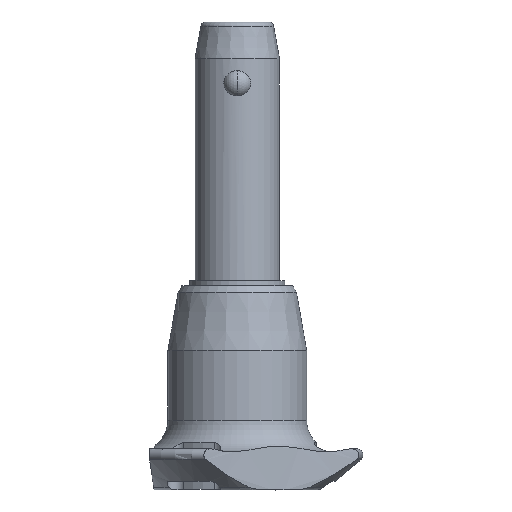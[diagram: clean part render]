
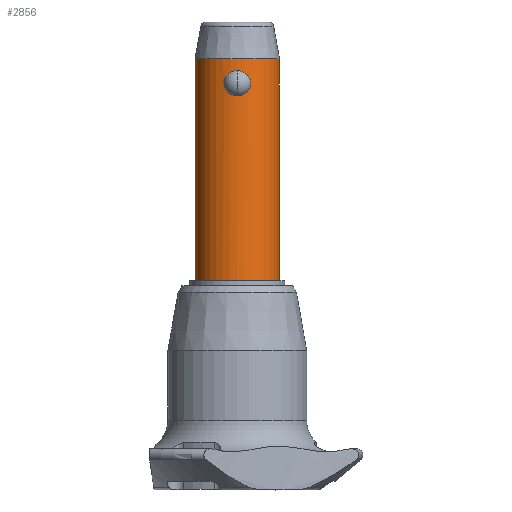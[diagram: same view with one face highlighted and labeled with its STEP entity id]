
A CAD part, front view. The second image highlights one B-rep face of the part: STEP entity #2856.
In plain terms, the highlighted cylindrical face has radius 8 mm (diameter 16 mm), a partial arc.
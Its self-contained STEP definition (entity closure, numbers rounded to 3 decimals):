
#48 = CARTESIAN_POINT ( 'NONE',  ( -2.546, -7.584, 2.553 ) ) ;
#78 = CARTESIAN_POINT ( 'NONE',  ( 0., 0., -35. ) ) ;
#117 = CARTESIAN_POINT ( 'NONE',  ( 1.105, -7.925, 0.226 ) ) ;
#128 = CARTESIAN_POINT ( 'NONE',  ( 2.46, -7.613, 1.742 ) ) ;
#177 = CARTESIAN_POINT ( 'NONE',  ( -1.107, -7.924, 4.548 ) ) ;
#259 = DIRECTION ( 'NONE',  ( 0., 0., 1. ) ) ;
#268 = CARTESIAN_POINT ( 'NONE',  ( -2.003, -7.746, 3.882 ) ) ;
#290 = ORIENTED_EDGE ( 'NONE', *, *, #1285, .F. ) ;
#307 = CARTESIAN_POINT ( 'NONE',  ( 2.528, -7.59, 2.058 ) ) ;
#356 = VERTEX_POINT ( 'NONE', #936 ) ;
#422 = CARTESIAN_POINT ( 'NONE',  ( -0.164, -8., 4.775 ) ) ;
#462 = FACE_OUTER_BOUND ( 'NONE', #1162, .T. ) ;
#474 = VERTEX_POINT ( 'NONE', #1502 ) ;
#517 = CARTESIAN_POINT ( 'NONE',  ( -1.896, -7.773, 4.001 ) ) ;
#529 = DIRECTION ( 'NONE',  ( 1., 0., 0. ) ) ;
#530 = CARTESIAN_POINT ( 'NONE',  ( -2.547, -7.584, 2.229 ) ) ;
#535 = DIRECTION ( 'NONE',  ( 0., 0., 1. ) ) ;
#553 = VERTEX_POINT ( 'NONE', #2702 ) ;
#556 = CARTESIAN_POINT ( 'NONE',  ( 0.652, -7.979, 0.058 ) ) ;
#567 = CARTESIAN_POINT ( 'NONE',  ( 2.275, -7.67, 1.291 ) ) ;
#568 = EDGE_LOOP ( 'NONE', ( #2649, #290 ) ) ;
#673 = CARTESIAN_POINT ( 'NONE',  ( 0., -8., 4.775 ) ) ;
#689 = CARTESIAN_POINT ( 'NONE',  ( -0.324, -8., 0. ) ) ;
#692 = CARTESIAN_POINT ( 'NONE',  ( 0., 0., -35. ) ) ;
#773 = CARTESIAN_POINT ( 'NONE',  ( 0.324, -8., 0. ) ) ;
#785 = CARTESIAN_POINT ( 'NONE',  ( 1.894, -7.773, 0.773 ) ) ;
#796 = CARTESIAN_POINT ( 'NONE',  ( 2.016, -7.746, 3.891 ) ) ;
#833 = ORIENTED_EDGE ( 'NONE', *, *, #2160, .T. ) ;
#851 = CARTESIAN_POINT ( 'NONE',  ( 0.164, -8., 4.775 ) ) ;
#855 = VECTOR ( 'NONE', #535, 1000. ) ;
#915 = CARTESIAN_POINT ( 'NONE',  ( 8., 0., -35. ) ) ;
#936 = CARTESIAN_POINT ( 'NONE',  ( 8., 0., -35. ) ) ;
#938 = CARTESIAN_POINT ( 'NONE',  ( -2.016, -7.746, 0.883 ) ) ;
#969 = LINE ( 'NONE', #2523, #855 ) ;
#1007 = CARTESIAN_POINT ( 'NONE',  ( 1.252, -7.903, 0.296 ) ) ;
#1017 = ORIENTED_EDGE ( 'NONE', *, *, #2526, .F. ) ;
#1020 = CARTESIAN_POINT ( 'NONE',  ( 2.41, -7.629, 3.184 ) ) ;
#1064 = CARTESIAN_POINT ( 'NONE',  ( -1.252, -7.903, 4.479 ) ) ;
#1088 = CARTESIAN_POINT ( 'NONE',  ( 0.645, -7.976, 4.704 ) ) ;
#1142 = CARTESIAN_POINT ( 'NONE',  ( -2.408, -7.629, 3.189 ) ) ;
#1155 = CARTESIAN_POINT ( 'NONE',  ( -1.658, -7.827, 4.216 ) ) ;
#1162 = EDGE_LOOP ( 'NONE', ( #1996, #1017, #2825, #833 ) ) ;
#1167 = CARTESIAN_POINT ( 'NONE',  ( -2.459, -7.613, 3.036 ) ) ;
#1176 = CARTESIAN_POINT ( 'NONE',  ( 0.804, -7.961, 4.661 ) ) ;
#1194 = CARTESIAN_POINT ( 'NONE',  ( 1.66, -7.827, 4.215 ) ) ;
#1234 = CARTESIAN_POINT ( 'NONE',  ( 2.529, -7.59, 2.71 ) ) ;
#1285 = EDGE_CURVE ( 'NONE', #474, #2328, #1961, .T. ) ;
#1372 = DIRECTION ( 'NONE',  ( 0., 0., -1. ) ) ;
#1395 = CARTESIAN_POINT ( 'NONE',  ( 0., -8., 0. ) ) ;
#1415 = AXIS2_PLACEMENT_3D ( 'NONE', #1608, #2046, #1826 ) ;
#1434 = CARTESIAN_POINT ( 'NONE',  ( 1.657, -7.827, 0.558 ) ) ;
#1443 = EDGE_CURVE ( 'NONE', #356, #553, #2703, .T. ) ;
#1446 = VERTEX_POINT ( 'NONE', #2270 ) ;
#1447 = CARTESIAN_POINT ( 'NONE',  ( 2.408, -7.629, 1.586 ) ) ;
#1502 = CARTESIAN_POINT ( 'NONE',  ( 0., -8., 0. ) ) ;
#1529 = CARTESIAN_POINT ( 'NONE',  ( 0., -8., 4.775 ) ) ;
#1579 = DIRECTION ( 'NONE',  ( 1., 0., 0. ) ) ;
#1588 = CARTESIAN_POINT ( 'NONE',  ( -2.461, -7.612, 1.746 ) ) ;
#1607 = CARTESIAN_POINT ( 'NONE',  ( -2.211, -7.69, 1.148 ) ) ;
#1608 = CARTESIAN_POINT ( 'NONE',  ( 0., 0., 7. ) ) ;
#1684 = CARTESIAN_POINT ( 'NONE',  ( 1.253, -7.903, 4.478 ) ) ;
#1713 = CARTESIAN_POINT ( 'NONE',  ( 0.326, -7.995, 4.761 ) ) ;
#1738 = AXIS2_PLACEMENT_3D ( 'NONE', #692, #2686, #1579 ) ;
#1744 = EDGE_CURVE ( 'NONE', #2328, #474, #2800, .T. ) ;
#1803 = CYLINDRICAL_SURFACE ( 'NONE', #1738, 8. ) ;
#1826 = DIRECTION ( 'NONE',  ( 1., 0., 0. ) ) ;
#1875 = CARTESIAN_POINT ( 'NONE',  ( 0., -8., 0. ) ) ;
#1904 = CARTESIAN_POINT ( 'NONE',  ( 2.211, -7.69, 3.626 ) ) ;
#1943 = CARTESIAN_POINT ( 'NONE',  ( 0., -8., 4.775 ) ) ;
#1950 = CARTESIAN_POINT ( 'NONE',  ( -1.527, -7.854, 4.313 ) ) ;
#1961 = B_SPLINE_CURVE_WITH_KNOTS ( 'NONE', 3,
 ( #1875, #773, #556, #117, #1007, #2518, #1434, #785, #2560, #2302, #567, #1447, #128, #307, #2749, #2343, #1234, #2286, #1020, #1904, #796, #1194, #2082, #1684, #2572, #1176, #1088, #1713, #851, #1943 ),
 .UNSPECIFIED., .F., .F.,
 ( 4, 2, 2, 2, 2, 2, 2, 2, 2, 2, 2, 2, 2, 2, 4 ),
 ( 0.008, 0.009, 0.009, 0.01, 0.01, 0.011, 0.011, 0.012, 0.012, 0.013, 0.014, 0.014, 0.015, 0.015, 0.016 ),
 .UNSPECIFIED. ) ;
#1981 = CARTESIAN_POINT ( 'NONE',  ( -0.803, -7.961, 4.661 ) ) ;
#1996 = ORIENTED_EDGE ( 'NONE', *, *, #2181, .F. ) ;
#2017 = FACE_BOUND ( 'NONE', #568, .T. ) ;
#2031 = CARTESIAN_POINT ( 'NONE',  ( -1.53, -7.854, 0.464 ) ) ;
#2044 = CARTESIAN_POINT ( 'NONE',  ( -1.254, -7.902, 0.297 ) ) ;
#2046 = DIRECTION ( 'NONE',  ( 0., 0., -1. ) ) ;
#2057 = CARTESIAN_POINT ( 'NONE',  ( -0.652, -7.979, 0.058 ) ) ;
#2082 = CARTESIAN_POINT ( 'NONE',  ( 1.529, -7.854, 4.312 ) ) ;
#2131 = CARTESIAN_POINT ( 'NONE',  ( -0.645, -7.976, 4.704 ) ) ;
#2160 = EDGE_CURVE ( 'NONE', #553, #2785, #2720, .T. ) ;
#2181 = EDGE_CURVE ( 'NONE', #1446, #2785, #969, .T. ) ;
#2198 = CARTESIAN_POINT ( 'NONE',  ( -0.326, -7.995, 4.761 ) ) ;
#2220 = CARTESIAN_POINT ( 'NONE',  ( -8., 0., 7. ) ) ;
#2248 = AXIS2_PLACEMENT_3D ( 'NONE', #78, #1372, #529 ) ;
#2265 = CARTESIAN_POINT ( 'NONE',  ( -1.659, -7.827, 0.559 ) ) ;
#2270 = CARTESIAN_POINT ( 'NONE',  ( -8., 0., -35. ) ) ;
#2278 = CARTESIAN_POINT ( 'NONE',  ( -2.276, -7.67, 3.482 ) ) ;
#2286 = CARTESIAN_POINT ( 'NONE',  ( 2.461, -7.612, 3.027 ) ) ;
#2290 = CARTESIAN_POINT ( 'NONE',  ( -2.529, -7.59, 2.716 ) ) ;
#2302 = CARTESIAN_POINT ( 'NONE',  ( 2.194, -7.694, 1.153 ) ) ;
#2328 = VERTEX_POINT ( 'NONE', #673 ) ;
#2343 = CARTESIAN_POINT ( 'NONE',  ( 2.547, -7.584, 2.549 ) ) ;
#2487 = VECTOR ( 'NONE', #259, 1000. ) ;
#2497 = CARTESIAN_POINT ( 'NONE',  ( -1.106, -7.925, 0.226 ) ) ;
#2518 = CARTESIAN_POINT ( 'NONE',  ( 1.529, -7.854, 0.463 ) ) ;
#2523 = CARTESIAN_POINT ( 'NONE',  ( -8., 0., -35. ) ) ;
#2526 = EDGE_CURVE ( 'NONE', #356, #1446, #2755, .T. ) ;
#2560 = CARTESIAN_POINT ( 'NONE',  ( 2.004, -7.746, 0.894 ) ) ;
#2572 = CARTESIAN_POINT ( 'NONE',  ( 1.108, -7.924, 4.548 ) ) ;
#2649 = ORIENTED_EDGE ( 'NONE', *, *, #1744, .F. ) ;
#2683 = CARTESIAN_POINT ( 'NONE',  ( -2.411, -7.628, 1.592 ) ) ;
#2686 = DIRECTION ( 'NONE',  ( 0., 0., 1. ) ) ;
#2702 = CARTESIAN_POINT ( 'NONE',  ( 8., 0., 7. ) ) ;
#2703 = LINE ( 'NONE', #915, #2487 ) ;
#2710 = CARTESIAN_POINT ( 'NONE',  ( -2.529, -7.59, 2.064 ) ) ;
#2720 = CIRCLE ( 'NONE', #1415, 8. ) ;
#2740 = CARTESIAN_POINT ( 'NONE',  ( -2.193, -7.694, 3.623 ) ) ;
#2749 = CARTESIAN_POINT ( 'NONE',  ( 2.546, -7.584, 2.22 ) ) ;
#2755 = CIRCLE ( 'NONE', #2248, 8. ) ;
#2785 = VERTEX_POINT ( 'NONE', #2220 ) ;
#2800 = B_SPLINE_CURVE_WITH_KNOTS ( 'NONE', 3,
 ( #1529, #422, #2198, #2131, #1981, #177, #1064, #1950, #1155, #517, #268, #2740, #2278, #1142, #1167, #2290, #48, #530, #2710, #1588, #2683, #1607, #938, #2265, #2031, #2044, #2497, #2057, #689, #1395 ),
 .UNSPECIFIED., .F., .F.,
 ( 4, 2, 2, 2, 2, 2, 2, 2, 2, 2, 2, 2, 2, 2, 4 ),
 ( 0., 0., 0.001, 0.001, 0.002, 0.002, 0.003, 0.003, 0.004, 0.004, 0.005, 0.006, 0.006, 0.007, 0.008 ),
 .UNSPECIFIED. ) ;
#2825 = ORIENTED_EDGE ( 'NONE', *, *, #1443, .T. ) ;
#2856 = ADVANCED_FACE ( 'NONE', ( #462, #2017 ), #1803, .T. ) ;
